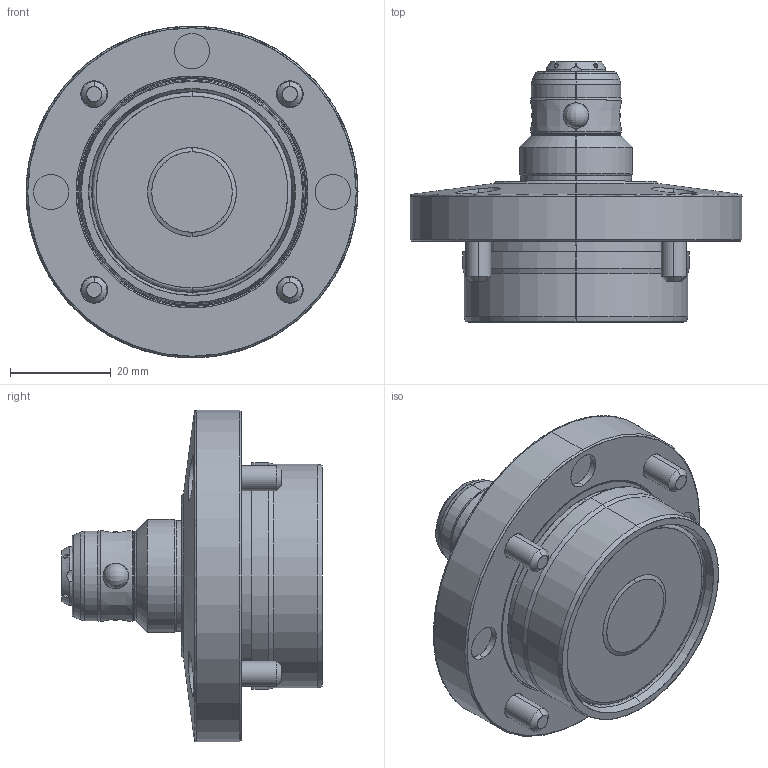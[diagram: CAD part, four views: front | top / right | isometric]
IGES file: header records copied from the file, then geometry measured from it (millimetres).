
Start section: SolidWorks IGES file using analytic representation for surfaces
Global section: file name: C:\Documents and Settings\D211\デスクトップ\IGES・STEP203変換用中間ﾌｫﾙﾀﾞ\SWT0020-MG.igs; native system: SolidWorks 2009; preprocessor: SolidWorks 2009; author: D211; date: 100804.162118; units: millimetre
Bounding box: 66 x 51.7 x 66 mm (x, y, z)
Surface area: 22043.3 mm2 (no closed solid volume)
Topology: 0 solids, 0 shells, 285 faces, 4757 edges, 4741 vertices
Faces by surface type: revolution 181, bspline 104
